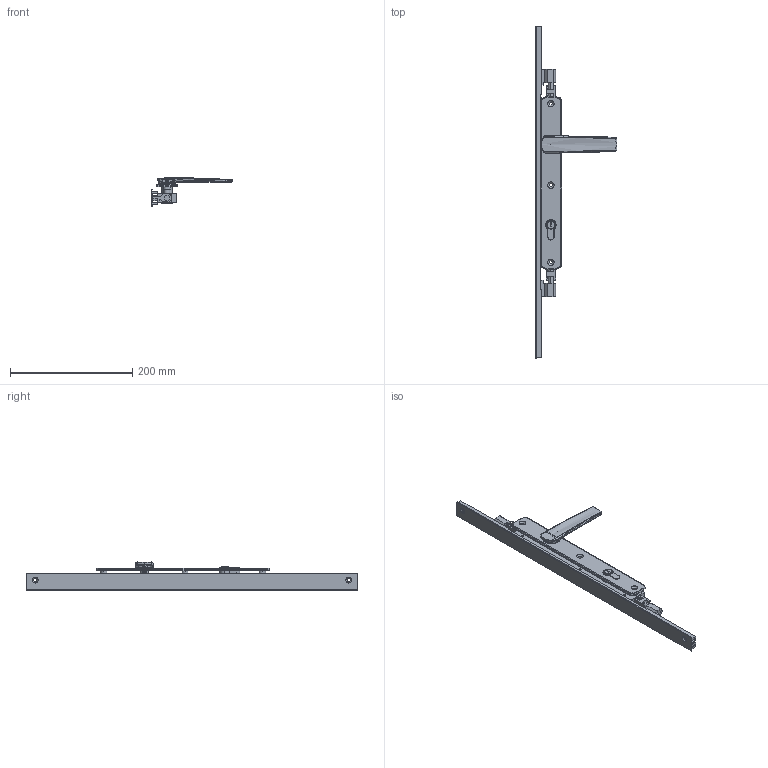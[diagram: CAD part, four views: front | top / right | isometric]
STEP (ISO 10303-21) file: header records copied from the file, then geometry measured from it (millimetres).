
FILE_DESCRIPTION (( 'STEP AP214' ), '1' );
FILE_NAME ('TPL-W-EU-621-U 06Nov2024.STEP', '2024-11-27T05:32:09', ( '' ), ( '' ), 'SwSTEP 2.0', 'SolidWorks 2023', '' );
FILE_SCHEMA (( 'AUTOMOTIVE_DESIGN' ));
Length unit declared in the file: millimetre
Products named in the file (19): Copy of Adapter CnE - simplfied^TPL-W-EU-121 04Nov2024_26mm backset; Copy of TPLGen2 lock body keyed assembly^TPL-W-EU-121 04Nov2024_Bolts retracted; Copy of Adapter DnF - simplfied^TPL-W-EU-121 04Nov2024_26mm backset; Bolt.step; Copy (2) of COV-112-B Cover B suit TPLGen2 standard range^TPL-W-EU-121 04Nov2024_2870mm; Copy of TPLGen2 lock body keyed^Copy of TPLGen2 lock body keyed assembly_TPL-W-EU-121 04Nov2024; Copy of Copy of LKC-531 Lock twinpoint transmission rod wood system^TPL-W-EU-121 04Nov2024_Standard Range 2891.7mm; Copy of COV-112-A Cover A suit TPLGen2 standard range^TPL-W-EU-121 04Nov2024_2870mm; TPLGen2 push rod - simplified^Copy of TPLGen2 lock body keyed assembly_TPL-W-EU-121 04Nov2024_Female thread M10; TPL-W-EU-621-U 06Nov2024; Copy of LKC-512 Escutcheon plate keyed internal 285mm long zinc - simplified^Copy of TPGen2 handle keyed internal zinc - simplified_TPL-W-EU-121 04Nov2024; Copy of LKC-505 Swing handle zinc - simplified^Copy of TPGen2 handle keyed internal zinc - simplified_TPL-W-EU-121 04Nov2024; Copy of LKC-586 Spindle square 8mm with M4 hole^Copy of TPGen2 handle keyed internal zinc - simplified_TPL-W-EU-121 04Nov2024_25mm; Copy of TPGen2 handle keyed internal zinc - simplified^TPL-W-EU-121 04Nov2024_Right; Copy of LKC-585 Rotator body zinc^Copy of TPGen2 handle keyed internal zinc - simplified_TPL-W-EU-121 04Nov2024; Copy of Copy of Copy of LKC-531 Lock twinpoint transmission rod wood system^TPL-W-EU-121 04Nov2024_Standard Range 2891.7mm; Copy of TPL-W-EU-130 04Nov2024^TPL-W-EU-121 04Nov2024_TPL-022 Right; Copy of LKC-584 Pivot body zinc - simplified^Copy of TPGen2 handle keyed internal zinc - simplified_TPL-W-EU-121 04Nov2024; Copy of COV-112-C Cover C TPLGen2 Lock body^TPL-W-EU-121 04Nov2024
Assembly tree (16 placements, depth 3):
  Bolt.step
  Copy (2) of COV-112-B Cover B suit TPLGen2 standard range^TPL-W-EU-121 04Nov2024_2870mm
  Copy of COV-112-A Cover A suit TPLGen2 standard range^TPL-W-EU-121 04Nov2024_2870mm
  TPL-W-EU-621-U 06Nov2024
    Copy of TPLGen2 lock body keyed assembly^TPL-W-EU-121 04Nov2024_Bolts retracted
      Copy of TPLGen2 lock body keyed^Copy of TPLGen2 lock body keyed assembly_TPL-W-EU-121 04Nov2024
      TPLGen2 push rod - simplified^Copy of TPLGen2 lock body keyed assembly_TPL-W-EU-121 04Nov2024_Female thread M10  x2
    Copy of TPGen2 handle keyed internal zinc - simplified^TPL-W-EU-121 04Nov2024_Right
      Copy of LKC-512 Escutcheon plate keyed internal 285mm long zinc - simplified^Copy of TPGen2 handle keyed internal zinc - simplified_TPL-W-EU-121 04Nov2024
      Copy of LKC-505 Swing handle zinc - simplified^Copy of TPGen2 handle keyed internal zinc - simplified_TPL-W-EU-121 04Nov2024
      Copy of LKC-585 Rotator body zinc^Copy of TPGen2 handle keyed internal zinc - simplified_TPL-W-EU-121 04Nov2024
      Copy of LKC-586 Spindle square 8mm with M4 hole^Copy of TPGen2 handle keyed internal zinc - simplified_TPL-W-EU-121 04Nov2024_25mm
      Copy of LKC-584 Pivot body zinc - simplified^Copy of TPGen2 handle keyed internal zinc - simplified_TPL-W-EU-121 04Nov2024
    Copy of TPL-W-EU-130 04Nov2024^TPL-W-EU-121 04Nov2024_TPL-022 Right
    Copy of COV-112-C Cover C TPLGen2 Lock body^TPL-W-EU-121 04Nov2024
    Copy of Copy of LKC-531 Lock twinpoint transmission rod wood system^TPL-W-EU-121 04Nov2024_Standard Range 2891.7mm
    Copy of Copy of Copy of LKC-531 Lock twinpoint transmission rod wood system^TPL-W-EU-121 04Nov2024_Standard Range 2891.7mm
    Copy of Adapter DnF - simplfied^TPL-W-EU-121 04Nov2024_26mm backset
    Copy of Adapter CnE - simplfied^TPL-W-EU-121 04Nov2024_26mm backset
Bounding box: 134.12 x 544 x 46.26 mm (x, y, z)
Volume: 282920.2 mm3; surface area: 139916.2 mm2
Topology: 14 solids, 14 shells, 920 faces, 2290 edges, 1428 vertices
Faces by surface type: plane 325, bspline 241, cylinder 229, cone 71, torus 46, sphere 8
Entity records: 33075 total; most frequent: CARTESIAN_POINT 13046, ORIENTED_EDGE 4388, DIRECTION 3625, EDGE_CURVE 2194, VERTEX_POINT 1368, AXIS2_PLACEMENT_3D 1333, EDGE_LOOP 984, VECTOR 959
